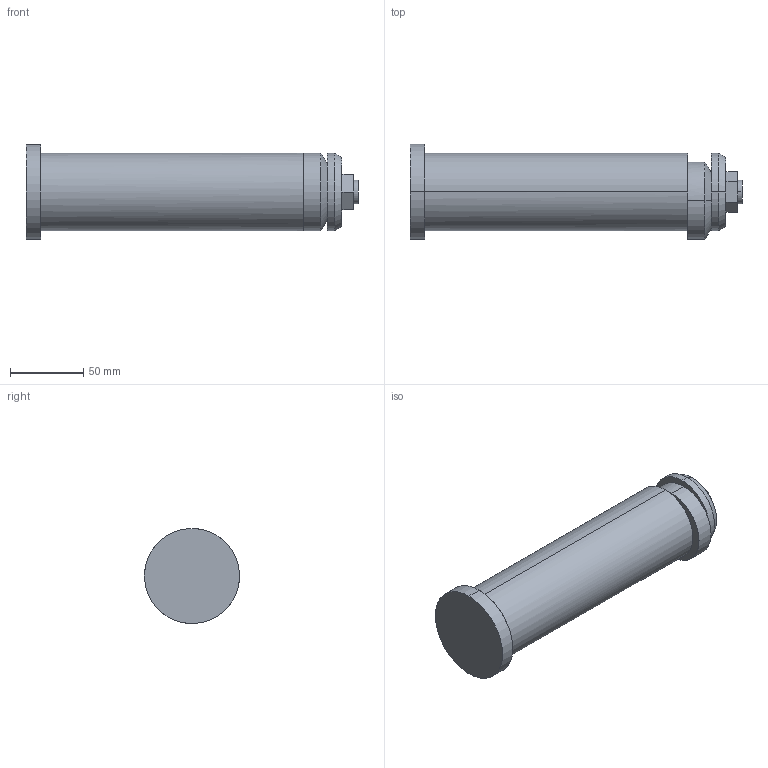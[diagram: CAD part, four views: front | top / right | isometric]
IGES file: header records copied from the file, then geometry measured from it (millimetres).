
Start section: START RECORD GO HERE.
Global section: file name: 395PSF-7.igs; native system: DASSAULT SYSTEMES CATIA V5 R20 - www.3ds.com; preprocessor: CATIA Version 5 Release 20 ; author: Utente; organization: NB04-ASUS; date: 20200409.224818; units: millimetre
Bounding box: 227 x 65 x 65 mm (x, y, z)
Surface area: 49725.7 mm2 (no closed solid volume)
Topology: 0 solids, 0 shells, 34 faces, 200 edges, 200 vertices
Faces by surface type: revolution 18, plane 16
